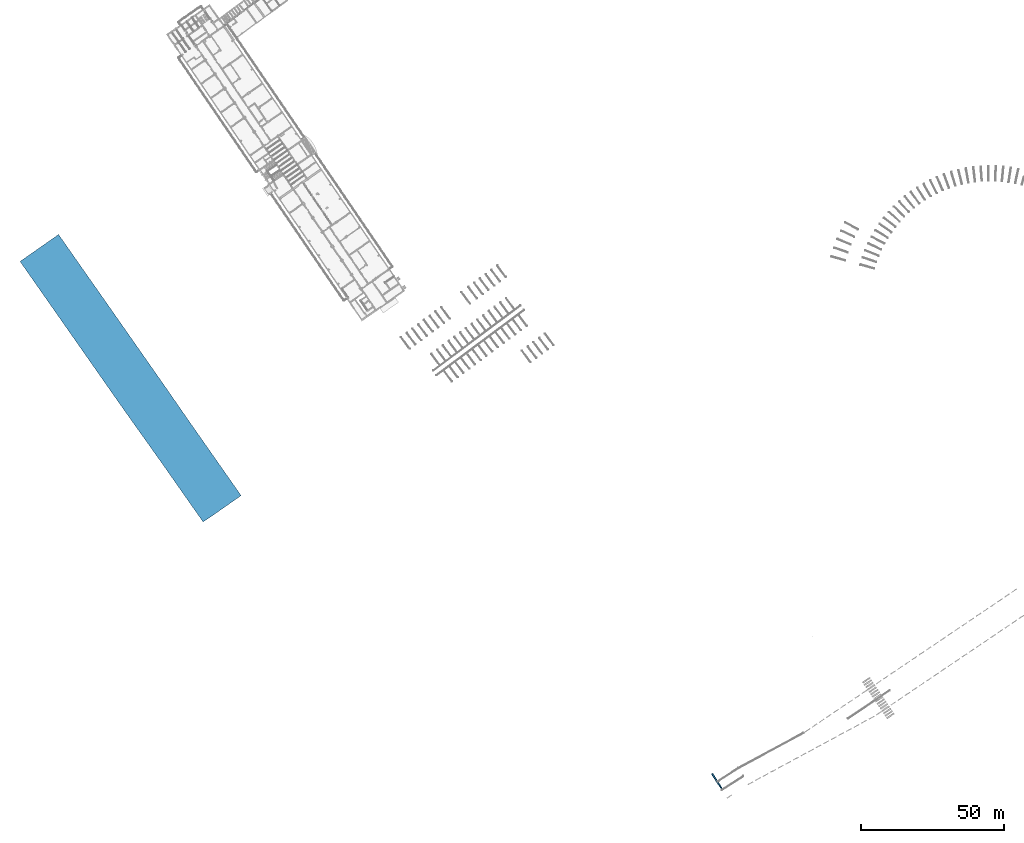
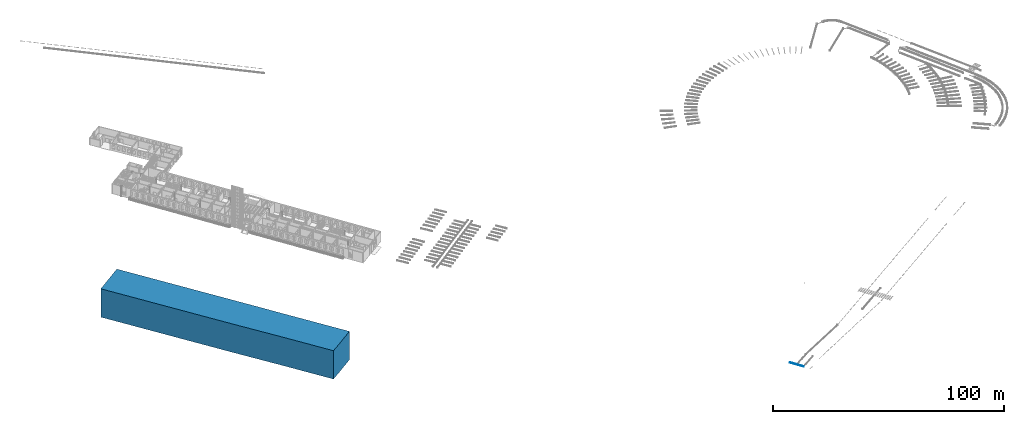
# One storey, part 54 of 157: 1 slab, 1 wall.
"""IFC2X3 building model written with IfcOpenShell, lengths in millimetres."""

from ifc_helpers import new_model, entity, si_unit, converted_unit, derived_unit, direction, frame, origin, place, context, subcontext, project, spatial, polyline, outline, extrude, faceted_brep, material, type_object, element, save


model = new_model("IFC2X3")

# Units and contexts
model_context = context("Model", 3, precision=0.01, world=origin(), true_north=direction((6.123031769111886e-17, 1.0)))
body_context = subcontext(model_context, "Body", "Model", "MODEL_VIEW")
ifc_project = project(units=[si_unit("LENGTHUNIT", "METRE", prefix="MILLI"), si_unit("AREAUNIT", "SQUARE_METRE"), si_unit("VOLUMEUNIT", "CUBIC_METRE"), converted_unit("PLANEANGLEUNIT", "DEGREE", entity("IfcRatioMeasure", 0.017453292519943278), si_unit("PLANEANGLEUNIT", "RADIAN"), dimensions=[0, 0, 0, 0, 0, 0, 0]), si_unit("MASSUNIT", "GRAM", prefix="KILO"), derived_unit("MASSDENSITYUNIT", [(si_unit("MASSUNIT", "GRAM", prefix="KILO"), 1), (si_unit("LENGTHUNIT", "METRE"), -3)]), derived_unit("MOMENTOFINERTIAUNIT", [(si_unit("LENGTHUNIT", "METRE"), 4)]), si_unit("TIMEUNIT", "SECOND"), si_unit("FREQUENCYUNIT", "HERTZ"), si_unit("THERMODYNAMICTEMPERATUREUNIT", "DEGREE_CELSIUS"), derived_unit("THERMALTRANSMITTANCEUNIT", [(si_unit("MASSUNIT", "GRAM", prefix="KILO"), 1), (si_unit("THERMODYNAMICTEMPERATUREUNIT", "KELVIN"), -1), (si_unit("TIMEUNIT", "SECOND"), -3)]), derived_unit("THERMALCONDUCTANCEUNIT", [(si_unit("MASSUNIT", "GRAM", prefix="KILO"), 1), (si_unit("LENGTHUNIT", "METRE"), 1), (si_unit("THERMODYNAMICTEMPERATUREUNIT", "KELVIN"), -1), (si_unit("TIMEUNIT", "SECOND"), -3)]), derived_unit("VOLUMETRICFLOWRATEUNIT", [(si_unit("LENGTHUNIT", "METRE"), 3), (si_unit("TIMEUNIT", "SECOND"), -1)]), derived_unit("MASSFLOWRATEUNIT", [(si_unit("MASSUNIT", "GRAM", prefix="KILO"), 1), (si_unit("TIMEUNIT", "SECOND"), -1)]), derived_unit("ROTATIONALFREQUENCYUNIT", [(si_unit("TIMEUNIT", "SECOND"), -1)]), si_unit("ELECTRICCURRENTUNIT", "AMPERE"), si_unit("ELECTRICVOLTAGEUNIT", "VOLT"), si_unit("POWERUNIT", "WATT"), converted_unit("FORCEUNIT", "KIP", entity("IfcRatioMeasure", 2.088543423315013e-05), si_unit("FORCEUNIT", "NEWTON"), dimensions=[1, 1, -2, 0, 0, 0, 0]), si_unit("ILLUMINANCEUNIT", "LUX"), si_unit("LUMINOUSFLUXUNIT", "LUMEN"), si_unit("LUMINOUSINTENSITYUNIT", "CANDELA"), derived_unit("USERDEFINED", [(si_unit("MASSUNIT", "GRAM", prefix="KILO"), -1), (si_unit("LENGTHUNIT", "METRE"), -2), (si_unit("TIMEUNIT", "SECOND"), 3), (si_unit("LUMINOUSFLUXUNIT", "LUMEN"), 1)]), derived_unit("USERDEFINED", [(si_unit("MASSUNIT", "GRAM", prefix="KILO"), 1), (si_unit("LENGTHUNIT", "METRE"), 3), (si_unit("TIMEUNIT", "SECOND"), -3), (si_unit("ELECTRICCURRENTUNIT", "AMPERE"), -2)]), derived_unit("USERDEFINED", [(si_unit("LENGTHUNIT", "METRE"), 2), (si_unit("TIMEUNIT", "SECOND"), -2)]), derived_unit("SOUNDPOWERUNIT", [(si_unit("MASSUNIT", "GRAM", prefix="KILO"), 1), (si_unit("LENGTHUNIT", "METRE"), 2), (si_unit("TIMEUNIT", "SECOND"), -3)]), derived_unit("SOUNDPRESSUREUNIT", [(si_unit("MASSUNIT", "GRAM", prefix="KILO"), 1), (si_unit("LENGTHUNIT", "METRE"), -1), (si_unit("TIMEUNIT", "SECOND"), -2)]), derived_unit("LINEARVELOCITYUNIT", [(si_unit("LENGTHUNIT", "METRE"), 1), (si_unit("TIMEUNIT", "SECOND"), -1)]), si_unit("PRESSUREUNIT", "PASCAL"), derived_unit("USERDEFINED", [(si_unit("LENGTHUNIT", "METRE"), -2), (si_unit("MASSUNIT", "GRAM", prefix="KILO"), 1), (si_unit("TIMEUNIT", "SECOND"), -2)]), derived_unit("LINEARFORCEUNIT", [(si_unit("MASSUNIT", "GRAM", prefix="KILO"), 1), (si_unit("LENGTHUNIT", "METRE"), 1), (si_unit("TIMEUNIT", "SECOND"), -2), (si_unit("LENGTHUNIT", "METRE"), -1)]), derived_unit("PLANARFORCEUNIT", [(si_unit("MASSUNIT", "GRAM", prefix="KILO"), 1), (si_unit("LENGTHUNIT", "METRE"), 1), (si_unit("TIMEUNIT", "SECOND"), -2), (si_unit("LENGTHUNIT", "METRE"), -2)]), derived_unit("SPECIFICHEATCAPACITYUNIT", [(si_unit("LENGTHUNIT", "METRE"), 2), (si_unit("TIMEUNIT", "SECOND"), -2), (si_unit("THERMODYNAMICTEMPERATUREUNIT", "KELVIN"), -1)]), derived_unit("VAPORPERMEABILITYUNIT", [(si_unit("TIMEUNIT", "SECOND"), 1), (si_unit("LENGTHUNIT", "METRE"), -1)]), derived_unit("DYNAMICVISCOSITYUNIT", [(si_unit("MASSUNIT", "GRAM", prefix="KILO"), 1), (si_unit("LENGTHUNIT", "METRE"), -1), (si_unit("TIMEUNIT", "SECOND"), -1)]), derived_unit("THERMALEXPANSIONCOEFFICIENTUNIT", [(si_unit("THERMODYNAMICTEMPERATUREUNIT", "KELVIN"), -1)])], contexts=[model_context])

# Site, building, storey
site_placement = place(None, frame((0.0, 0.0, 0.0), z_axis=(0.0, 0.0, 1.0), x_axis=(0.8191520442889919, 0.5735764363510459, 0.0)))
site = spatial("IfcSite", under=ifc_project, at=site_placement, Name="Default", CompositionType="ELEMENT")
building_placement = place(site_placement, origin())
building = spatial("IfcBuilding", under=site, at=building_placement, CompositionType="ELEMENT")
storey_placement = place(building_placement, origin())
storey = spatial("IfcBuildingStorey", under=building, at=storey_placement, Name="1.EG +0.00", CompositionType="ELEMENT", Elevation=-4.331468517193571e-12)

# Slab
ifc_material_1 = material(Name="buildings")
slab_type = type_object("IfcSlabType", Name="Slab-162", PredefinedType="FLOOR", material=ifc_material_1)
slab_placement = place(storey_placement, frame((-309611.887124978, 26288.142666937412, 500.0)))
element("IfcSlab", 1, at=slab_placement, inside=storey, type_object=slab_type, Name="Slab-162 236610:Slab-162 236610", ObjectType="Slab-162 236610:Slab-162 236610", PredefinedType="FLOOR", context=body_context, shape_type="Brep", body=[
    faceted_brep([(0.0, 47915.366869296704, 15000.0), (179.48230402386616, 24954.453207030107, 15000.0), (179.48230402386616, 144.41897723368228, 15000.0), (5285.779916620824, 53.94139130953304, 15000.0), (16353.281719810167, 53.94139130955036, 15000.0), (16349.352848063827, 0.0, 15000.0), (16349.352848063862, 31624.651739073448, 15000.0), (16420.787096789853, 44834.51829385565, 15000.0), (16420.787096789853, 111202.30638720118, 15000.0), (0.0, 111202.30638720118, 15000.0), (0.0, 47915.366869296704, 0.0), (0.0, 111202.30638720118, 0.0), (16420.787096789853, 111202.30638720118, 0.0), (16420.787096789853, 44834.51829385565, 0.0), (16349.352848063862, 31624.651739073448, 0.0), (16349.352848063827, 0.0, 0.0), (16353.281719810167, 53.94139130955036, 0.0), (5285.779916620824, 53.94139130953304, 0.0), (179.48230402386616, 144.41897723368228, 0.0), (179.48230402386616, 24954.453207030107, 0.0)], [[[0, 1, 2, 3, 4, 5, 6, 7, 8, 9]], [[10, 11, 12, 13, 14, 15, 16, 17, 18, 19]], [[1, 0, 10, 19]], [[2, 1, 19, 18]], [[3, 2, 18, 17]], [[4, 3, 17, 16]], [[5, 4, 16, 15]], [[6, 5, 15, 14]], [[7, 6, 14, 13]], [[8, 7, 13, 12]], [[9, 8, 12, 11]], [[0, 9, 11, 10]]]),
])

# Wall
ifc_material_2 = material(Name="road_markirovka")
wall_type = type_object("IfcWallType", Name="81", PredefinedType="NOTDEFINED", material=ifc_material_2)
wall_placement = place(storey_placement, frame((-214871.5518042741, -154062.84075083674, 350.0), z_axis=(0.0, 0.0, 1.0), x_axis=(0.0, 1.0, 0.0)))
element("IfcWall", 2, at=wall_placement, inside=storey, type_object=wall_type, material=ifc_material_2, Name="81 206580:81 206580", ObjectType="81 206580:81 206580", context=body_context, shape_type="SweptSolid", body=[
    extrude(outline(polyline([(-1494.8474723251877, -3063.9730799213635), (-956.3309916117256, -3063.973079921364), (1457.7084046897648, 2971.125410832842), (993.4700592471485, 3156.8207490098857), (-1494.8474723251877, -3063.9730799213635)])), frame((3388.436290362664, -375.49900952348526, 0.0), z_axis=(0.0, 0.0, 1.0), x_axis=(0.3368188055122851, -0.9415694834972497, 0.0)), (0.0, 0.0, 1.0), 9.999999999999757),
])

save(model, "model.ifc")
